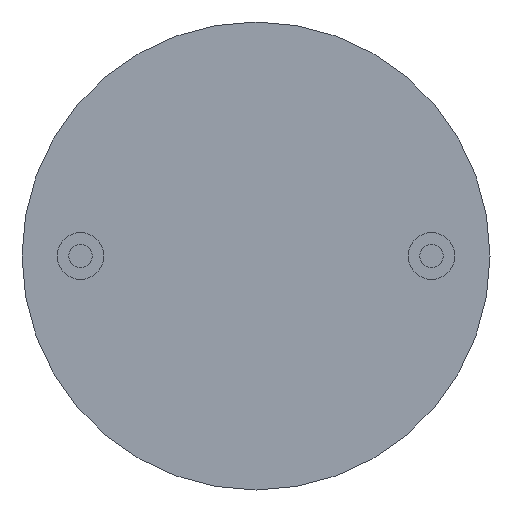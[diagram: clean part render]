
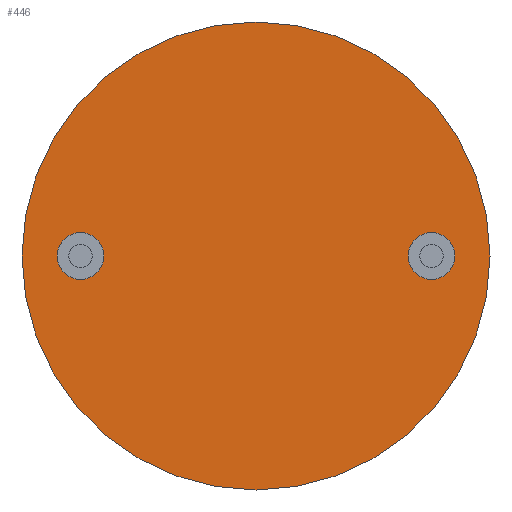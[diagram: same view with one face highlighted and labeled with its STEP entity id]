
A CAD part, front view. The second image highlights one B-rep face of the part: STEP entity #446.
In plain terms, the highlighted planar face has unit normal (0, -1, 0).
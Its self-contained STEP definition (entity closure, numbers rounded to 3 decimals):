
#1=CARTESIAN_POINT('',(1.5,0.,0.));
#2=DIRECTION('',(0.,1.,0.));
#3=DIRECTION('',(1.,0.,0.));
#4=AXIS2_PLACEMENT_3D('',#1,#2,#3);
#6=CARTESIAN_POINT('',(1.5,0.,0.));
#7=DIRECTION('',(0.,1.,0.));
#8=DIRECTION('',(-1.,0.,0.));
#9=AXIS2_PLACEMENT_3D('',#6,#7,#8);
#11=CARTESIAN_POINT('',(-1.5,0.,0.));
#12=DIRECTION('',(0.,1.,0.));
#13=DIRECTION('',(1.,0.,0.));
#14=AXIS2_PLACEMENT_3D('',#11,#12,#13);
#16=CARTESIAN_POINT('',(-1.5,0.,0.));
#17=DIRECTION('',(0.,1.,0.));
#18=DIRECTION('',(-1.,0.,0.));
#19=AXIS2_PLACEMENT_3D('',#16,#17,#18);
#29=CARTESIAN_POINT('',(0.,0.,0.));
#30=DIRECTION('',(0.,1.,0.));
#31=DIRECTION('',(1.,0.,0.));
#32=AXIS2_PLACEMENT_3D('',#29,#30,#31);
#34=CARTESIAN_POINT('',(0.,0.,0.));
#35=DIRECTION('',(0.,-1.,0.));
#36=DIRECTION('',(1.,0.,0.));
#37=AXIS2_PLACEMENT_3D('',#34,#35,#36);
#327=CARTESIAN_POINT('',(2.,0.,0.));
#329=VERTEX_POINT('',#327);
#331=CARTESIAN_POINT('',(-2.,0.,0.));
#333=VERTEX_POINT('',#331);
#379=CARTESIAN_POINT('',(1.7,0.,0.));
#380=VERTEX_POINT('',#379);
#381=CARTESIAN_POINT('',(1.3,0.,0.));
#382=VERTEX_POINT('',#381);
#387=CARTESIAN_POINT('',(-1.3,0.,0.));
#388=VERTEX_POINT('',#387);
#389=CARTESIAN_POINT('',(-1.7,0.,0.));
#390=VERTEX_POINT('',#389);
#423=CARTESIAN_POINT('',(0.,0.,0.));
#424=DIRECTION('',(0.,-1.,0.));
#425=DIRECTION('',(-1.,0.,0.));
#426=AXIS2_PLACEMENT_3D('',#423,#424,#425);
#427=PLANE('',#426);
#429=ORIENTED_EDGE('',*,*,#428,.T.);
#431=ORIENTED_EDGE('',*,*,#430,.F.);
#432=EDGE_LOOP('',(#429,#431));
#433=FACE_OUTER_BOUND('',#432,.F.);
#435=ORIENTED_EDGE('',*,*,#434,.F.);
#437=ORIENTED_EDGE('',*,*,#436,.F.);
#438=EDGE_LOOP('',(#435,#437));
#439=FACE_BOUND('',#438,.F.);
#441=ORIENTED_EDGE('',*,*,#440,.F.);
#443=ORIENTED_EDGE('',*,*,#442,.F.);
#444=EDGE_LOOP('',(#441,#443));
#445=FACE_BOUND('',#444,.F.);
#5=CIRCLE('',#4,0.2);
#10=CIRCLE('',#9,0.2);
#15=CIRCLE('',#14,0.2);
#20=CIRCLE('',#19,0.2);
#33=CIRCLE('',#32,2.);
#38=CIRCLE('',#37,2.);
#428=EDGE_CURVE('',#329,#333,#33,.T.);
#430=EDGE_CURVE('',#329,#333,#38,.T.);
#434=EDGE_CURVE('',#380,#382,#5,.T.);
#436=EDGE_CURVE('',#382,#380,#10,.T.);
#440=EDGE_CURVE('',#388,#390,#15,.T.);
#442=EDGE_CURVE('',#390,#388,#20,.T.);
#446=ADVANCED_FACE('',(#433,#439,#445),#427,.T.);
